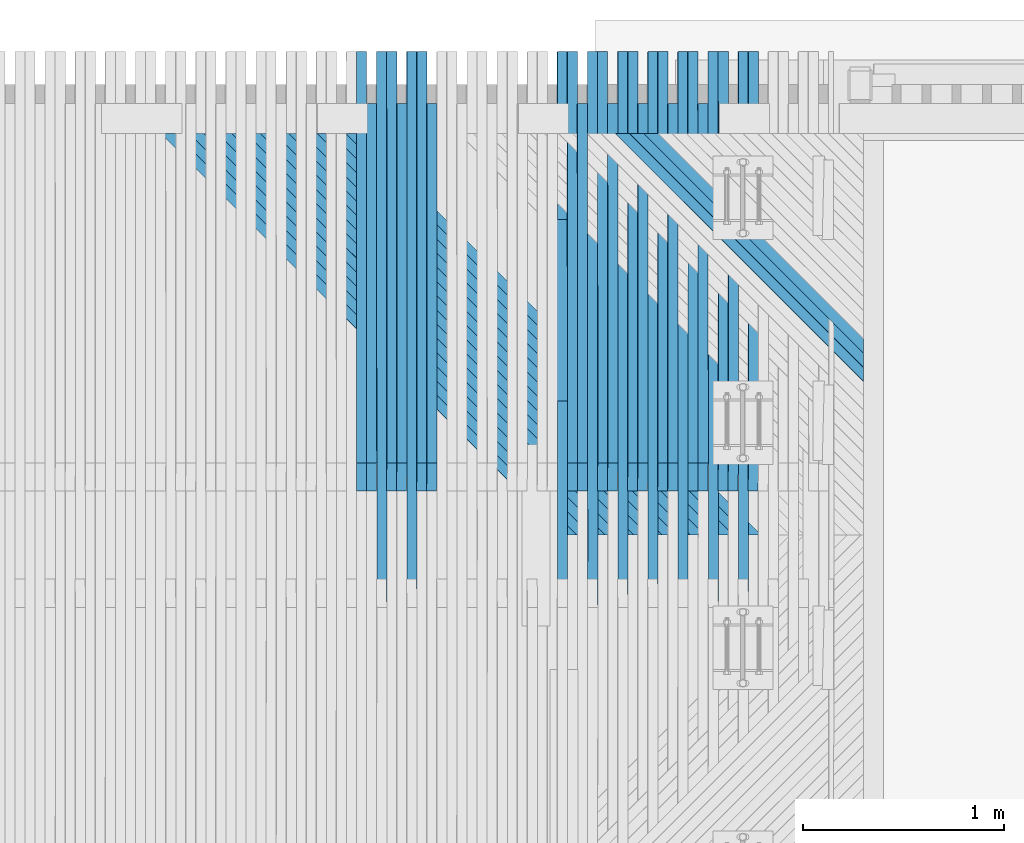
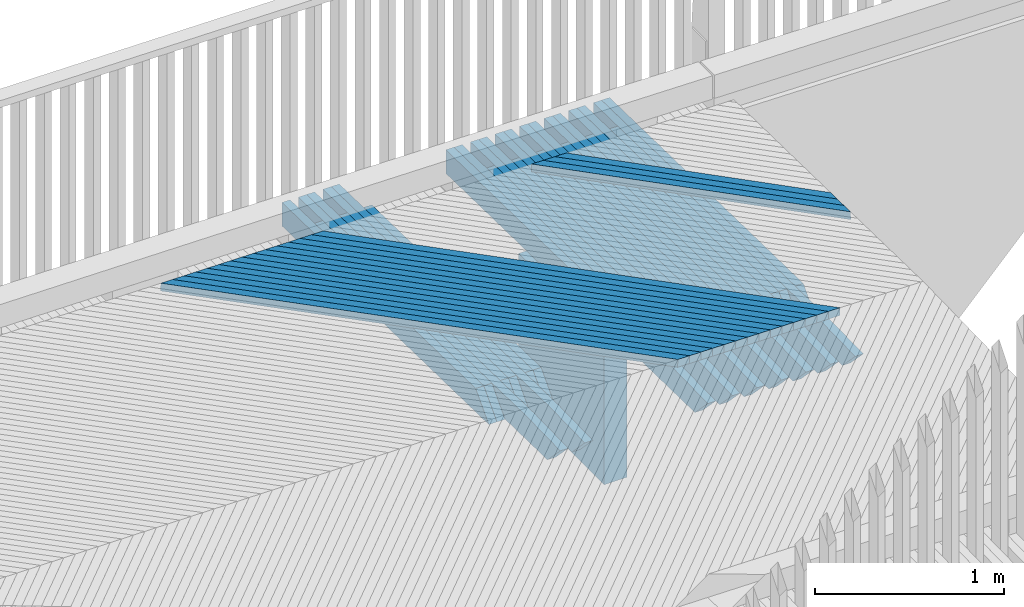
# One storey, part 41 of 47: 46 beams.
"""IFC2X3 building model written with IfcOpenShell, lengths in millimetres."""

from ifc_helpers import new_model, si_unit, frame, origin_with_axes, place, context, subcontext, project, spatial, faceted_brep, material, type_object, element, save


model = new_model("IFC2X3")

# Units and contexts
model_context = context("Model", 3, precision=1e-05, world=origin_with_axes())
body_context = subcontext(model_context, "Body", "Model", "MODEL_VIEW")
ifc_project = project(units=[si_unit("LENGTHUNIT", "METRE", prefix="MILLI"), si_unit("AREAUNIT", "SQUARE_METRE"), si_unit("VOLUMEUNIT", "CUBIC_METRE"), si_unit("MASSUNIT", "GRAM", prefix="KILO"), si_unit("TIMEUNIT", "SECOND"), si_unit("PLANEANGLEUNIT", "RADIAN"), si_unit("SOLIDANGLEUNIT", "STERADIAN"), si_unit("THERMODYNAMICTEMPERATUREUNIT", "DEGREE_CELSIUS"), si_unit("LUMINOUSINTENSITYUNIT", "LUMEN")], contexts=[model_context])

# Site, building, storey
site_placement = place(None, origin_with_axes())
site = spatial("IfcSite", under=ifc_project, at=site_placement, Name="Undefined", CompositionType="ELEMENT")
building_placement = place(site_placement, origin_with_axes())
building = spatial("IfcBuilding", under=site, at=building_placement, Name="Undefined", CompositionType="ELEMENT")
storey_placement = place(building_placement, origin_with_axes())
storey = spatial("IfcBuildingStorey", under=building, at=storey_placement, Name="Undefined", CompositionType="ELEMENT", Elevation=0.0)

# Beams
ifc_material = material(Name="TIMBER/Timber_Undefined")
beam_type_1 = type_object("IfcBeamType", Name="150*50", PredefinedType="NOTDEFINED")
beam_1_placement = place(storey_placement, frame((16051.1745116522, 64771.4438078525, 3034.14462054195), z_axis=(0.0133748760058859, 0.0199960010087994, 0.999710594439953), x_axis=(0.000267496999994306, -0.99980005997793, 0.0199942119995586)))
element("IfcBeam", 1, at=beam_1_placement, inside=storey, type_object=beam_type_1, material=ifc_material, Name="BEAM", ObjectType="150*50", context=body_context, shape_type="Brep", body=[
    faceted_brep([(6.18456397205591e-09, -24.9999999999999, -75.0000000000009), (-6.1918399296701e-09, -24.9999999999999, 74.9999999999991), (-6.19911588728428e-09, 25.0, 75.0), (6.18456397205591e-09, 24.9999999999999, -75.0), (2047.96935975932, 25.0, 75.0), (2186.42645864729, 25.0, -75.0), (2186.42645915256, -25.0000000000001, -75.0), (2047.96936034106, -25.0000000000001, 75.0)], [[[0, 1, 2, 3]], [[3, 2, 4, 5]], [[0, 3, 5, 6]], [[1, 0, 6, 7]], [[2, 1, 7, 4]], [[7, 6, 5, 4]]]),
])
beam_2_placement = place(storey_placement, frame((16001.1395513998, 64771.443807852, 3034.81314235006), z_axis=(0.013208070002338, 0.0199960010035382, 0.999712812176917), x_axis=(0.000264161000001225, -0.999800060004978, 0.0199942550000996)))
element("IfcBeam", 2, at=beam_2_placement, inside=storey, type_object=beam_type_1, material=ifc_material, Name="BEAM", ObjectType="150*50", context=body_context, shape_type="Brep", body=[
    faceted_brep([(6.18456397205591e-09, -24.9999999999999, -75.0000000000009), (6.18456397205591e-09, 24.9999999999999, -75.0), (2633.00494983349, 25.0000000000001, -75.0000000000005), (2633.00495050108, -24.9999999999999, -75.0000000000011), (-6.1918399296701e-09, -24.9999999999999, 74.9999999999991), (-6.19911588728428e-09, 25.0, 75.0), (2408.42506497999, 24.9999999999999, 75.0), (2768.5924870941, 25.0, 60.5875375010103), (2768.59248707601, -25.0, 60.5875366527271), (2408.4250638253, -25.0, 74.9999999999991)], [[[0, 1, 2, 3]], [[0, 4, 5, 1]], [[2, 1, 5, 6, 7]], [[3, 2, 7, 8]], [[4, 0, 3, 8, 9]], [[5, 4, 9, 6]], [[8, 7, 6, 9]]]),
])
beam_3_placement = place(storey_placement, frame((15951.1272743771, 64513.4953923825, 3040.6339626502), z_axis=(0.013208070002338, 0.0199960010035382, 0.999712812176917), x_axis=(0.000264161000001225, -0.999800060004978, 0.0199942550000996)))
element("IfcBeam", 3, at=beam_3_placement, inside=storey, type_object=beam_type_1, material=ifc_material, Name="BEAM", ObjectType="150*50", context=body_context, shape_type="Brep", body=[
    faceted_brep([(6.18456397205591e-09, -24.9999999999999, -75.0000000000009), (-6.1918399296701e-09, -24.9999999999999, 74.9999999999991), (-6.19911588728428e-09, 25.0, 75.0), (6.18456397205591e-09, 24.9999999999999, -75.0), (1789.96936586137, 25.0, 75.0000000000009), (1928.42646506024, 25.0, -75.0), (1928.4264649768, -24.9999999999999, -75.0), (1789.96936577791, -24.9999999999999, 75.0)], [[[0, 1, 2, 3]], [[3, 2, 4, 5]], [[0, 3, 5, 6]], [[1, 0, 6, 7]], [[2, 1, 7, 4]], [[7, 6, 5, 4]]]),
])
beam_4_placement = place(storey_placement, frame((15901.1589184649, 64771.4438078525, 3036.13254464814), z_axis=(0.0131257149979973, 0.0199960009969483, 0.999713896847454), x_axis=(0.000262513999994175, -0.999800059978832, 0.0199942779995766)))
element("IfcBeam", 4, at=beam_4_placement, inside=storey, type_object=beam_type_1, material=ifc_material, Name="BEAM", ObjectType="150*50", context=body_context, shape_type="Brep", body=[
    faceted_brep([(6.18456397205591e-09, -24.9999999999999, -75.0000000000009), (-6.1918399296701e-09, -24.9999999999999, 74.9999999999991), (-6.19911588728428e-09, 25.0, 75.0), (6.18456397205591e-09, 24.9999999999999, -75.0), (2047.96935975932, 25.0, 75.0), (2186.42645864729, 25.0, -75.0), (2186.42645915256, -25.0000000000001, -75.0), (2047.96936034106, -25.0000000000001, 75.0)], [[[0, 1, 2, 3]], [[3, 2, 4, 5]], [[0, 3, 5, 6]], [[1, 0, 6, 7]], [[2, 1, 7, 4]], [[7, 6, 5, 4]]]),
])
beam_5_placement = place(storey_placement, frame((15851.1237931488, 64771.443807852, 3036.78859607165), z_axis=(0.0129589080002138, 0.0199960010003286, 0.999716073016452), x_axis=(0.000259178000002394, -0.999800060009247, 0.0199943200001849)))
element("IfcBeam", 5, at=beam_5_placement, inside=storey, type_object=beam_type_1, material=ifc_material, Name="BEAM", ObjectType="150*50", context=body_context, shape_type="Brep", body=[
    faceted_brep([(6.18456397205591e-09, -24.9999999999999, -75.0000000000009), (6.18456397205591e-09, 24.9999999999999, -75.0), (2633.00494983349, 25.0000000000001, -75.0000000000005), (2633.00495050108, -24.9999999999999, -75.0000000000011), (-6.1918399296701e-09, -24.9999999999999, 74.9999999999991), (-6.19911588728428e-09, 25.0, 75.0), (2408.42506497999, 24.9999999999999, 75.0), (2768.5924870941, 25.0, 60.5875375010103), (2768.59248707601, -25.0, 60.5875366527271), (2408.4250638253, -25.0, 74.9999999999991)], [[[0, 1, 2, 3]], [[0, 4, 5, 1]], [[2, 1, 5, 6, 7]], [[3, 2, 7, 8]], [[4, 0, 3, 8, 9]], [[5, 4, 9, 6]], [[8, 7, 6, 9]]]),
])
beam_6_placement = place(storey_placement, frame((15801.1100669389, 64513.4953923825, 3042.59695148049), z_axis=(0.0129589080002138, 0.0199960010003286, 0.999716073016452), x_axis=(0.000259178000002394, -0.999800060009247, 0.0199943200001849)))
element("IfcBeam", 6, at=beam_6_placement, inside=storey, type_object=beam_type_1, material=ifc_material, Name="BEAM", ObjectType="150*50", context=body_context, shape_type="Brep", body=[
    faceted_brep([(6.18456397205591e-09, -24.9999999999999, -75.0000000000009), (-6.1918399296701e-09, -24.9999999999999, 74.9999999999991), (-6.19911588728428e-09, 25.0, 75.0), (6.18456397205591e-09, 24.9999999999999, -75.0), (1789.96936586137, 25.0, 75.0000000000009), (1928.42646506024, 25.0, -75.0), (1928.4264649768, -24.9999999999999, -75.0), (1789.96936577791, -24.9999999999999, 75.0)], [[[0, 1, 2, 3]], [[3, 2, 4, 5]], [[0, 3, 5, 6]], [[1, 0, 6, 7]], [[2, 1, 7, 4]], [[7, 6, 5, 4]]]),
])
beam_7_placement = place(storey_placement, frame((15751.1428344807, 64771.4438078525, 3038.08307985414), z_axis=(0.012876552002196, 0.0199960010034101, 0.999717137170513), x_axis=(0.00025753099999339, -0.999800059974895, 0.019994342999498)))
element("IfcBeam", 7, at=beam_7_placement, inside=storey, type_object=beam_type_1, material=ifc_material, Name="BEAM", ObjectType="150*50", context=body_context, shape_type="Brep", body=[
    faceted_brep([(6.18456397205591e-09, -24.9999999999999, -75.0000000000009), (-6.1918399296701e-09, -24.9999999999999, 74.9999999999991), (-6.19911588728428e-09, 25.0, 75.0), (6.18456397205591e-09, 24.9999999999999, -75.0), (2047.96935975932, 25.0, 75.0), (2186.42645864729, 25.0, -75.0), (2186.42645915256, -25.0000000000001, -75.0), (2047.96936034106, -25.0000000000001, 75.0)], [[[0, 1, 2, 3]], [[3, 2, 4, 5]], [[0, 3, 5, 6]], [[1, 0, 6, 7]], [[2, 1, 7, 4]], [[7, 6, 5, 4]]]),
])
beam_8_placement = place(storey_placement, frame((15701.1075472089, 64771.443807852, 3038.72666085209), z_axis=(0.012709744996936, 0.0199960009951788, 0.999719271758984), x_axis=(0.000254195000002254, -0.999800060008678, 0.0199943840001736)))
element("IfcBeam", 8, at=beam_8_placement, inside=storey, type_object=beam_type_1, material=ifc_material, Name="BEAM", ObjectType="150*50", context=body_context, shape_type="Brep", body=[
    faceted_brep([(6.18456397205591e-09, -24.9999999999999, -75.0000000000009), (6.18456397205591e-09, 24.9999999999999, -75.0), (2633.00494983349, 25.0000000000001, -75.0000000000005), (2633.00495050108, -24.9999999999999, -75.0000000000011), (-6.1918399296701e-09, -24.9999999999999, 74.9999999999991), (-6.19911588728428e-09, 25.0, 75.0), (2408.42506497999, 24.9999999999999, 75.0), (2768.5924870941, 25.0, 60.5875375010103), (2768.59248707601, -25.0, 60.5875366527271), (2408.4250638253, -25.0, 74.9999999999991)], [[[0, 1, 2, 3]], [[0, 4, 5, 1]], [[2, 1, 5, 6, 7]], [[3, 2, 7, 8]], [[4, 0, 3, 8, 9]], [[5, 4, 9, 6]], [[8, 7, 6, 9]]]),
])
beam_9_placement = place(storey_placement, frame((15651.0923749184, 64513.4953923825, 3044.52255100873), z_axis=(0.012709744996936, 0.0199960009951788, 0.999719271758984), x_axis=(0.000254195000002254, -0.999800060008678, 0.0199943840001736)))
element("IfcBeam", 9, at=beam_9_placement, inside=storey, type_object=beam_type_1, material=ifc_material, Name="BEAM", ObjectType="150*50", context=body_context, shape_type="Brep", body=[
    faceted_brep([(6.18456397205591e-09, -24.9999999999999, -75.0000000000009), (-6.1918399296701e-09, -24.9999999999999, 74.9999999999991), (-6.19911588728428e-09, 25.0, 75.0), (6.18456397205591e-09, 24.9999999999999, -75.0), (1789.96936586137, 25.0, 75.0000000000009), (1928.42646506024, 25.0, -75.0), (1928.4264649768, -24.9999999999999, -75.0), (1789.96936577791, -24.9999999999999, 75.0)], [[[0, 1, 2, 3]], [[3, 2, 4, 5]], [[0, 3, 5, 6]], [[1, 0, 6, 7]], [[2, 1, 7, 4]], [[7, 6, 5, 4]]]),
])
beam_10_placement = place(storey_placement, frame((15601.1262690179, 64771.4438078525, 3039.99622603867), z_axis=(0.012627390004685, 0.019996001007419, 0.999720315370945), x_axis=(0.000252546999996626, -0.999800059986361, 0.0199944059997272)))
element("IfcBeam", 10, at=beam_10_placement, inside=storey, type_object=beam_type_1, material=ifc_material, Name="BEAM", ObjectType="150*50", context=body_context, shape_type="Brep", body=[
    faceted_brep([(6.18456397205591e-09, -24.9999999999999, -75.0000000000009), (-6.1918399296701e-09, -24.9999999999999, 74.9999999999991), (-6.19911588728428e-09, 25.0, 75.0), (6.18456397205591e-09, 24.9999999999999, -75.0), (2047.96935975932, 25.0, 75.0), (2186.42645864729, 25.0, -75.0), (2186.42645915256, -25.0000000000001, -75.0), (2047.96936034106, -25.0000000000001, 75.0)], [[[0, 1, 2, 3]], [[3, 2, 4, 5]], [[0, 3, 5, 6]], [[1, 0, 6, 7]], [[2, 1, 7, 4]], [[7, 6, 5, 4]]]),
])
beam_11_placement = place(storey_placement, frame((15551.0908228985, 64771.443807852, 3040.62733657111), z_axis=(0.0124605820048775, 0.0199960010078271, 0.999722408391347), x_axis=(0.000249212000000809, -0.999800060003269, 0.0199944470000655)))
element("IfcBeam", 11, at=beam_11_placement, inside=storey, type_object=beam_type_1, material=ifc_material, Name="BEAM", ObjectType="150*50", context=body_context, shape_type="Brep", body=[
    faceted_brep([(6.18456397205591e-09, -24.9999999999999, -75.0000000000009), (6.18456397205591e-09, 24.9999999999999, -75.0), (2633.00494983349, 25.0000000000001, -75.0000000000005), (2633.00495050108, -24.9999999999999, -75.0000000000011), (-6.1918399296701e-09, -24.9999999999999, 74.9999999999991), (-6.19911588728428e-09, 25.0, 75.0), (2408.42506497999, 24.9999999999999, 75.0), (2768.5924870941, 25.0, 60.5875375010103), (2768.59248707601, -25.0, 60.5875366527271), (2408.4250638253, -25.0, 74.9999999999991)], [[[0, 1, 2, 3]], [[0, 4, 5, 1]], [[2, 1, 5, 6, 7]], [[3, 2, 7, 8]], [[4, 0, 3, 8, 9]], [[5, 4, 9, 6]], [[8, 7, 6, 9]]]),
])
beam_12_placement = place(storey_placement, frame((15501.0742076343, 64513.4953923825, 3046.41076111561), z_axis=(0.0124605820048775, 0.0199960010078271, 0.999722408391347), x_axis=(0.000249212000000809, -0.999800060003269, 0.0199944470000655)))
element("IfcBeam", 12, at=beam_12_placement, inside=storey, type_object=beam_type_1, material=ifc_material, Name="BEAM", ObjectType="150*50", context=body_context, shape_type="Brep", body=[
    faceted_brep([(6.18456397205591e-09, -24.9999999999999, -75.0000000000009), (-6.1918399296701e-09, -24.9999999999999, 74.9999999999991), (-6.19911588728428e-09, 25.0, 75.0), (6.18456397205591e-09, 24.9999999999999, -75.0), (1789.96936586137, 25.0, 75.0000000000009), (1928.42646506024, 25.0, -75.0), (1928.4264649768, -24.9999999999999, -75.0), (1789.96936577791, -24.9999999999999, 75.0)], [[[0, 1, 2, 3]], [[3, 2, 4, 5]], [[0, 3, 5, 6]], [[1, 0, 6, 7]], [[2, 1, 7, 4]], [[7, 6, 5, 4]]]),
])
beam_13_placement = place(storey_placement, frame((15451.1092313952, 64771.4438078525, 3041.87198308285), z_axis=(0.0123782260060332, 0.0199960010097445, 0.99972343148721), x_axis=(0.000247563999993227, -0.999800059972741, 0.0199944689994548)))
element("IfcBeam", 13, at=beam_13_placement, inside=storey, type_object=beam_type_1, material=ifc_material, Name="BEAM", ObjectType="150*50", context=body_context, shape_type="Brep", body=[
    faceted_brep([(6.18456397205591e-09, -24.9999999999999, -75.0000000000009), (-6.1918399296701e-09, -24.9999999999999, 74.9999999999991), (-6.19911588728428e-09, 25.0, 75.0), (6.18456397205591e-09, 24.9999999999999, -75.0), (2047.96935975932, 25.0, 75.0), (2186.42645864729, 25.0, -75.0), (2186.42645915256, -25.0000000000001, -75.0), (2047.96936034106, -25.0000000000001, 75.0)], [[[0, 1, 2, 3]], [[3, 2, 4, 5]], [[0, 3, 5, 6]], [[1, 0, 6, 7]], [[2, 1, 7, 4]], [[7, 6, 5, 4]]]),
])
beam_14_placement = place(storey_placement, frame((15401.0736295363, 64771.443807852, 3042.49062311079), z_axis=(0.0122114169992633, 0.0199960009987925, 0.999725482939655), x_axis=(0.000244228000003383, -0.999800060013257, 0.0199945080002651)))
element("IfcBeam", 14, at=beam_14_placement, inside=storey, type_object=beam_type_1, material=ifc_material, Name="BEAM", ObjectType="150*50", context=body_context, shape_type="Brep", body=[
    faceted_brep([(6.18456397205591e-09, -24.9999999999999, -75.0000000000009), (6.18456397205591e-09, 24.9999999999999, -75.0), (2633.00494983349, 25.0000000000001, -75.0000000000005), (2633.00495050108, -24.9999999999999, -75.0000000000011), (-6.1918399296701e-09, -24.9999999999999, 74.9999999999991), (-6.19911588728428e-09, 25.0, 75.0), (2408.42506497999, 24.9999999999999, 75.0), (2768.5924870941, 25.0, 60.5875375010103), (2768.59248707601, -25.0, 60.5875366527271), (2408.4250638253, -25.0, 74.9999999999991)], [[[0, 1, 2, 3]], [[0, 4, 5, 1]], [[2, 1, 5, 6, 7]], [[3, 2, 7, 8]], [[4, 0, 3, 8, 9]], [[5, 4, 9, 6]], [[8, 7, 6, 9]]]),
])
beam_15_placement = place(storey_placement, frame((15351.0555744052, 64513.4953923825, 3048.26158168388), z_axis=(0.0122114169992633, 0.0199960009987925, 0.999725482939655), x_axis=(0.000244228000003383, -0.999800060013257, 0.0199945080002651)))
element("IfcBeam", 15, at=beam_15_placement, inside=storey, type_object=beam_type_1, material=ifc_material, Name="BEAM", ObjectType="150*50", context=body_context, shape_type="Brep", body=[
    faceted_brep([(6.18456397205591e-09, -24.9999999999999, -75.0000000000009), (-6.1918399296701e-09, -24.9999999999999, 74.9999999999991), (-6.19911588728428e-09, 25.0, 75.0), (6.18456397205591e-09, 24.9999999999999, -75.0), (1789.96936586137, 25.0, 75.0000000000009), (1928.42646506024, 25.0, -75.0), (1928.4264649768, -24.9999999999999, -75.0), (1789.96936577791, -24.9999999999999, 75.0)], [[[0, 1, 2, 3]], [[3, 2, 4, 5]], [[0, 3, 5, 6]], [[1, 0, 6, 7]], [[2, 1, 7, 4]], [[7, 6, 5, 4]]]),
])
beam_16_placement = place(storey_placement, frame((15301.0917309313, 64771.4438078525, 3043.7103508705), z_axis=(0.0121290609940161, 0.0199960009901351, 0.999726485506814), x_axis=(0.000242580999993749, -0.999800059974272, 0.0199945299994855)))
element("IfcBeam", 16, at=beam_16_placement, inside=storey, type_object=beam_type_1, material=ifc_material, Name="BEAM", ObjectType="150*50", context=body_context, shape_type="Brep", body=[
    faceted_brep([(6.18456397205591e-09, -24.9999999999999, -75.0000000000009), (-6.1918399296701e-09, -24.9999999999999, 74.9999999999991), (-6.19911588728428e-09, 25.0, 75.0), (6.18456397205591e-09, 24.9999999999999, -75.0), (2047.96935975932, 25.0, 75.0), (2186.42645864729, 25.0, -75.0), (2186.42645915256, -25.0000000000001, -75.0), (2047.96936034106, -25.0000000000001, 75.0)], [[[0, 1, 2, 3]], [[3, 2, 4, 5]], [[0, 3, 5, 6]], [[1, 0, 6, 7]], [[2, 1, 7, 4]], [[7, 6, 5, 4]]]),
])
beam_17_placement = place(storey_placement, frame((15251.0559764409, 64771.443807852, 3044.31652035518), z_axis=(0.0119622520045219, 0.0199960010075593, 0.999728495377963), x_axis=(0.000239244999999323, -0.999800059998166, 0.0199945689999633)))
element("IfcBeam", 17, at=beam_17_placement, inside=storey, type_object=beam_type_1, material=ifc_material, Name="BEAM", ObjectType="150*50", context=body_context, shape_type="Brep", body=[
    faceted_brep([(6.18456397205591e-09, -24.9999999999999, -75.0000000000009), (6.18456397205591e-09, 24.9999999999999, -75.0), (2633.00494983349, 25.0000000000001, -75.0000000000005), (2633.00495050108, -24.9999999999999, -75.0000000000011), (-6.1918399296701e-09, -24.9999999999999, 74.9999999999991), (-6.19911588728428e-09, 25.0, 75.0), (2408.42501428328, 25.0000000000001, 74.9999999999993), (2768.5924870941, 25.0, 60.5875375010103), (2768.59248707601, -25.0, 60.5875366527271), (2408.4250638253, -25.0, 74.9999999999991)], [[[0, 1, 2, 3]], [[0, 4, 5, 1]], [[2, 1, 5, 6, 7]], [[3, 2, 7, 8]], [[4, 0, 3, 8, 9]], [[5, 4, 9, 6]], [[8, 7, 6, 9]]]),
])
beam_18_placement = place(storey_placement, frame((15201.0364845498, 64513.4953923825, 3050.0750125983), z_axis=(0.0119622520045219, 0.0199960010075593, 0.999728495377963), x_axis=(0.000239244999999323, -0.999800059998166, 0.0199945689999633)))
element("IfcBeam", 18, at=beam_18_placement, inside=storey, type_object=beam_type_1, material=ifc_material, Name="BEAM", ObjectType="150*50", context=body_context, shape_type="Brep", body=[
    faceted_brep([(6.18456397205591e-09, -24.9999999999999, -75.0000000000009), (-6.1918399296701e-09, -24.9999999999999, 74.9999999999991), (-6.19911588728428e-09, 25.0, 75.0), (6.18456397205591e-09, 24.9999999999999, -75.0), (1789.96936586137, 25.0, 75.0000000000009), (1928.42646506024, 25.0, -75.0), (1928.4264649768, -24.9999999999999, -75.0), (1789.96936577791, -24.9999999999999, 75.0)], [[[0, 1, 2, 3]], [[3, 2, 4, 5]], [[0, 3, 5, 6]], [[1, 0, 6, 7]], [[2, 1, 7, 4]], [[7, 6, 5, 4]]]),
])
beam_19_placement = place(storey_placement, frame((15151.0737769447, 64771.4438078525, 3045.51132928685), z_axis=(0.0118798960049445, 0.0199960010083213, 0.999729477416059), x_axis=(0.000237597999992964, -0.999800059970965, 0.0199945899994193)))
element("IfcBeam", 19, at=beam_19_placement, inside=storey, type_object=beam_type_1, material=ifc_material, Name="BEAM", ObjectType="150*50", context=body_context, shape_type="Brep", body=[
    faceted_brep([(6.18456397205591e-09, -24.9999999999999, -75.0000000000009), (-6.1918399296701e-09, -24.9999999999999, 74.9999999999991), (-6.19911588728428e-09, 25.0, 75.0), (6.18456397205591e-09, 24.9999999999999, -75.0), (2047.96935975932, 25.0, 75.0), (2186.42645864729, 25.0, -75.0), (2186.42645915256, -25.0000000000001, -75.0), (2047.96936034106, -25.0000000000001, 75.0)], [[[0, 1, 2, 3]], [[3, 2, 4, 5]], [[0, 3, 5, 6]], [[1, 0, 6, 7]], [[2, 1, 7, 4]], [[7, 6, 5, 4]]]),
])
beam_20_placement = place(storey_placement, frame((15101.0378729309, 64771.443807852, 3046.10502819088), z_axis=(0.011713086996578, 0.0199960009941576, 0.999731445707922), x_axis=(0.000234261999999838, -0.999800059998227, 0.0199946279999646)))
element("IfcBeam", 20, at=beam_20_placement, inside=storey, type_object=beam_type_1, material=ifc_material, Name="BEAM", ObjectType="150*50", context=body_context, shape_type="Brep", body=[
    faceted_brep([(6.18456397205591e-09, -24.9999999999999, -75.0000000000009), (6.18456397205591e-09, 24.9999999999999, -75.0), (2633.00494983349, 25.0000000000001, -75.0000000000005), (2633.00495050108, -24.9999999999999, -75.0000000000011), (-6.1918399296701e-09, -24.9999999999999, 74.9999999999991), (-6.19911588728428e-09, 25.0, 75.0), (2408.42501428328, 25.0000000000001, 74.9999999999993), (2768.5924870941, 25.0, 60.5875375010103), (2768.59248707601, -25.0, 60.5875366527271), (2408.4250638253, -25.0, 74.9999999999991)], [[[0, 1, 2, 3]], [[0, 4, 5, 1]], [[2, 1, 5, 6, 7]], [[3, 2, 7, 8]], [[4, 0, 3, 8, 9]], [[5, 4, 9, 6]], [[8, 7, 6, 9]]]),
])
beam_21_placement = place(storey_placement, frame((14450.9345120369, 64513.4953923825, 3058.58131850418), z_axis=(0.0107164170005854, 0.0199960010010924, 0.999742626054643), x_axis=(0.000214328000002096, -0.999800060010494, 0.0199948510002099)))
element("IfcBeam", 21, at=beam_21_placement, inside=storey, type_object=beam_type_1, material=ifc_material, Name="BEAM", ObjectType="150*50", context=body_context, shape_type="Brep", body=[
    faceted_brep([(6.18456397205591e-09, -24.9999999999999, -75.0000000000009), (-6.1918399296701e-09, -24.9999999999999, 74.9999999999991), (-6.19911588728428e-09, 25.0, 75.0), (6.18456397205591e-09, 24.9999999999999, -75.0), (1789.96936586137, 25.0, 75.0000000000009), (1928.42646506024, 25.0, -75.0), (1928.4264649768, -24.9999999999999, -75.0), (1789.96936577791, -24.9999999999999, 75.0)], [[[0, 1, 2, 3]], [[3, 2, 4, 5]], [[0, 3, 5, 6]], [[1, 0, 6, 7]], [[2, 1, 7, 4]], [[7, 6, 5, 4]]]),
])
beam_22_placement = place(storey_placement, frame((14400.9775303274, 64771.4438078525, 3053.95537697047), z_axis=(0.0106340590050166, 0.0199960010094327, 0.999743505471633), x_axis=(0.000212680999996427, -0.999800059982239, 0.0199948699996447)))
element("IfcBeam", 22, at=beam_22_placement, inside=storey, type_object=beam_type_1, material=ifc_material, Name="BEAM", ObjectType="150*50", context=body_context, shape_type="Brep", body=[
    faceted_brep([(6.18456397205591e-09, -24.9999999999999, -75.0000000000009), (-6.1918399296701e-09, -24.9999999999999, 74.9999999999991), (-6.19911588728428e-09, 25.0, 75.0), (6.18456397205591e-09, 24.9999999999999, -75.0), (2047.96935975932, 25.0, 75.0), (2186.42645864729, 25.0, -75.0), (2186.42645915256, -25.0000000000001, -75.0), (2047.96936034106, -25.0000000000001, 75.0)], [[[0, 1, 2, 3]], [[3, 2, 4, 5]], [[0, 3, 5, 6]], [[1, 0, 6, 7]], [[2, 1, 7, 4]], [[7, 6, 5, 4]]]),
])
beam_23_placement = place(storey_placement, frame((14350.940925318, 64771.443807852, 3054.48672243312), z_axis=(0.0104672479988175, 0.019996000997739, 0.999745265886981), x_axis=(0.000209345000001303, -0.999800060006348, 0.019994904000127)))
element("IfcBeam", 23, at=beam_23_placement, inside=storey, type_object=beam_type_1, material=ifc_material, Name="BEAM", ObjectType="150*50", context=body_context, shape_type="Brep", body=[
    faceted_brep([(6.18456397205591e-09, -24.9999999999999, -75.0000000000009), (6.18456397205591e-09, 24.9999999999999, -75.0), (2633.00494983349, 25.0000000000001, -75.0000000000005), (2633.00495050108, -24.9999999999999, -75.0000000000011), (-6.1918399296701e-09, -24.9999999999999, 74.9999999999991), (-6.19911588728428e-09, 25.0, 75.0), (2408.42506497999, 24.9999999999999, 75.0), (2768.5924870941, 25.0, 60.5875375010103), (2768.59248707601, -25.0, 60.5875366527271), (2408.4250638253, -25.0, 74.9999999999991)], [[[0, 1, 2, 3]], [[0, 4, 5, 1]], [[2, 1, 5, 6, 7]], [[3, 2, 7, 8]], [[4, 0, 3, 8, 9]], [[5, 4, 9, 6]], [[8, 7, 6, 9]]]),
])
beam_24_placement = place(storey_placement, frame((14300.9128781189, 64513.4953923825, 3060.17040921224), z_axis=(0.0104672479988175, 0.019996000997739, 0.999745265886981), x_axis=(0.000209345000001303, -0.999800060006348, 0.019994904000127)))
element("IfcBeam", 24, at=beam_24_placement, inside=storey, type_object=beam_type_1, material=ifc_material, Name="BEAM", ObjectType="150*50", context=body_context, shape_type="Brep", body=[
    faceted_brep([(6.18456397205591e-09, -24.9999999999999, -75.0000000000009), (-6.1918399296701e-09, -24.9999999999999, 74.9999999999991), (-6.19911588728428e-09, 25.0, 75.0), (6.18456397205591e-09, 24.9999999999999, -75.0), (1789.96936586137, 25.0, 75.0000000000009), (1928.42646506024, 25.0, -75.0), (1928.4264649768, -24.9999999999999, -75.0), (1789.96936577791, -24.9999999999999, 75.0)], [[[0, 1, 2, 3]], [[3, 2, 4, 5]], [[0, 3, 5, 6]], [[1, 0, 6, 7]], [[2, 1, 7, 4]], [[7, 6, 5, 4]]]),
])
beam_25_placement = place(storey_placement, frame((14250.9570508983, 64771.4438078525, 3055.53201689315), z_axis=(0.0103848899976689, 0.0199960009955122, 0.999746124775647), x_axis=(0.000207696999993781, -0.999800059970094, 0.019994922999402)))
element("IfcBeam", 25, at=beam_25_placement, inside=storey, type_object=beam_type_1, material=ifc_material, Name="BEAM", ObjectType="150*50", context=body_context, shape_type="Brep", body=[
    faceted_brep([(6.18456397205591e-09, -24.9999999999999, -75.0000000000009), (-6.1918399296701e-09, -24.9999999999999, 74.9999999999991), (-6.19911588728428e-09, 25.0, 75.0), (6.18456397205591e-09, 24.9999999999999, -75.0), (2047.96935975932, 25.0, 75.0), (2186.42645864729, 25.0, -75.0), (2186.42645915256, -25.0000000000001, -75.0), (2047.96936034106, -25.0000000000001, 75.0)], [[[0, 1, 2, 3]], [[3, 2, 4, 5]], [[0, 3, 5, 6]], [[1, 0, 6, 7]], [[2, 1, 7, 4]], [[7, 6, 5, 4]]]),
])
beam_26_placement = place(storey_placement, frame((14200.9203150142, 64771.443807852, 3056.05089156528), z_axis=(0.0102180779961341, 0.0199960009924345, 0.999747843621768), x_axis=(0.000204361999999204, -0.999800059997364, 0.0199949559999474)))
element("IfcBeam", 26, at=beam_26_placement, inside=storey, type_object=beam_type_1, material=ifc_material, Name="BEAM", ObjectType="150*50", context=body_context, shape_type="Brep", body=[
    faceted_brep([(6.18456397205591e-09, -24.9999999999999, -75.0000000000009), (6.18456397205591e-09, 24.9999999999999, -75.0), (2633.00494983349, 25.0000000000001, -75.0000000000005), (2633.00495050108, -24.9999999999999, -75.0000000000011), (-6.1918399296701e-09, -24.9999999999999, 74.9999999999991), (-6.19911588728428e-09, 25.0, 75.0), (2408.42501428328, 25.0000000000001, 74.9999999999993), (2768.5924870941, 25.0, 60.5875375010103), (2768.59248707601, -25.0, 60.5875366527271), (2408.42499905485, -25.0, 74.9999999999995)], [[[0, 1, 2, 3]], [[0, 4, 5, 1]], [[2, 1, 5, 6, 7]], [[3, 2, 7, 8]], [[4, 0, 3, 8, 9]], [[5, 4, 9, 6]], [[6, 9, 8, 7]]]),
])
beam_27_placement = place(storey_placement, frame((14150.8908528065, 64513.4953923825, 3061.72210952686), z_axis=(0.0102180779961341, 0.0199960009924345, 0.999747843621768), x_axis=(0.000204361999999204, -0.999800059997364, 0.0199949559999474)))
element("IfcBeam", 27, at=beam_27_placement, inside=storey, type_object=beam_type_1, material=ifc_material, Name="BEAM", ObjectType="150*50", context=body_context, shape_type="Brep", body=[
    faceted_brep([(6.18456397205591e-09, -24.9999999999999, -75.0000000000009), (-6.1918399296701e-09, -24.9999999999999, 74.9999999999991), (-6.19911588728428e-09, 25.0, 75.0), (6.18456397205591e-09, 24.9999999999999, -75.0), (1789.96936586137, 25.0, 75.0000000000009), (1928.42646506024, 25.0, -75.0), (1928.4264649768, -24.9999999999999, -75.0), (1789.96936577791, -24.9999999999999, 75.0)], [[[0, 1, 2, 3]], [[3, 2, 4, 5]], [[0, 3, 5, 6]], [[1, 0, 6, 7]], [[2, 1, 7, 4]], [[7, 6, 5, 4]]]),
])
beam_28_placement = place(storey_placement, frame((14100.936183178, 64771.4438078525, 3057.07126671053), z_axis=(0.0101357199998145, 0.0199960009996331, 0.999748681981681), x_axis=(0.000202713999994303, -0.99980005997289, 0.0199949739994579)))
element("IfcBeam", 28, at=beam_28_placement, inside=storey, type_object=beam_type_1, material=ifc_material, Name="BEAM", ObjectType="150*50", context=body_context, shape_type="Brep", body=[
    faceted_brep([(6.18456397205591e-09, -24.9999999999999, -75.0000000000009), (-6.1918399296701e-09, -24.9999999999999, 74.9999999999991), (-6.19911588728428e-09, 25.0, 75.0), (6.18456397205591e-09, 24.9999999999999, -75.0), (2047.96935975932, 25.0, 75.0), (2186.42645864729, 25.0, -75.0), (2186.42645915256, -25.0000000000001, -75.0), (2047.96936034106, -25.0000000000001, 75.0)], [[[0, 1, 2, 3]], [[3, 2, 4, 5]], [[0, 3, 5, 6]], [[1, 0, 6, 7]], [[2, 1, 7, 4]], [[7, 6, 5, 4]]]),
])
beam_type_2 = type_object("IfcBeamType", Name="945*140", PredefinedType="NOTDEFINED")
beam_29_placement = place(storey_placement, frame((15109.0, 63937.5, 2500.4679002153), z_axis=(0.0, 0.0, 1.0), x_axis=(0.0, -1.0, 0.0)))
element("IfcBeam", 29, at=beam_29_placement, inside=storey, type_object=beam_type_2, material=ifc_material, Name="PALKKI", ObjectType="945*140", context=body_context, shape_type="Brep", body=[
    faceted_brep([(0.0, 70.0, -472.5), (0.0, 70.0, 472.5), (905.0, 70.0, 472.5), (905.0, 70.0, -472.5), (0.0, -70.0, 472.5), (905.0, -70.0, 472.5), (0.0, -70.0, -472.5), (905.0, -70.0, -472.5)], [[[0, 1, 2, 3]], [[1, 4, 5, 2]], [[4, 6, 7, 5]], [[6, 0, 3, 7]], [[5, 7, 3, 2]], [[6, 4, 1, 0]]]),
])
beam_type_3 = type_object("IfcBeamType", Name="50*50", PredefinedType="NOTDEFINED")
beam_30_placement = place(storey_placement, frame((17541.730193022, 62365.4998996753, 3160.51267253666), z_axis=(0.706821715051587, 0.706981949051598, -0.0240746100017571), x_axis=(-0.707252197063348, 0.706948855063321, -0.00420072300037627)))
element("IfcBeam", 30, at=beam_30_placement, inside=storey, type_object=beam_type_3, material=ifc_material, Name="BEAM", ObjectType="50*50", context=body_context, shape_type="Brep", body=[
    faceted_brep([(2804.34067830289, -24.9999999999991, 25.0), (2854.34301907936, -24.9999999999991, -25.0), (2852.92877373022, 25.0000000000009, -25.0), (2802.92643296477, 25.0000000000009, 25.0), (1357.01519479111, 25.0000000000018, 25.0000000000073), (1356.02193646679, -24.9999999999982, 25.0000000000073), (1306.05236988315, -24.9999999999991, -24.9999999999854), (1307.04562820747, 25.0000000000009, -24.9999999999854)], [[[0, 1, 2, 3]], [[0, 3, 4, 5]], [[1, 0, 5, 6]], [[2, 1, 6, 7]], [[3, 2, 7, 4]], [[6, 5, 4, 7]]]),
])
beam_31_placement = place(storey_placement, frame((17471.0147750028, 62365.4998996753, 3161.6292973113), z_axis=(0.706824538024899, 0.706981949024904, -0.0239915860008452), x_axis=(-0.7072516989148, 0.706948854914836, -0.004283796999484)))
element("IfcBeam", 31, at=beam_31_placement, inside=storey, type_object=beam_type_3, material=ifc_material, Name="BEAM", ObjectType="50*50", context=body_context, shape_type="Brep", body=[
    faceted_brep([(2804.34067830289, -24.9999999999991, 25.0), (2854.34301907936, -24.9999999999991, -25.0), (2852.92877373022, 25.0000000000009, -25.0), (2802.92643296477, 25.0000000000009, 25.0), (1257.02588801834, 25.0000000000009, 25.0), (1256.04093053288, -24.9999999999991, 25.0000000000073), (1206.07112918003, -24.9999999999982, -24.9999999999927), (1207.05608666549, 25.0000000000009, -24.9999999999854)], [[[0, 1, 2, 3]], [[0, 3, 4, 5]], [[1, 0, 5, 6]], [[2, 1, 6, 7]], [[3, 2, 7, 4]], [[6, 5, 4, 7]]]),
])
beam_32_placement = place(storey_placement, frame((17400.2992263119, 62365.4998996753, 3162.73761579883), z_axis=(0.706827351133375, 0.706981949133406, -0.0239085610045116), x_axis=(-0.707251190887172, 0.70694885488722, -0.00436687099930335)))
element("IfcBeam", 32, at=beam_32_placement, inside=storey, type_object=beam_type_3, material=ifc_material, Name="BEAM", ObjectType="50*50", context=body_context, shape_type="Brep", body=[
    faceted_brep([(2804.34067830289, -24.9999999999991, 25.0), (2854.34301907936, -24.9999999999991, -25.0), (2852.92877373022, 25.0000000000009, -25.0), (2802.92643296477, 25.0000000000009, 25.0), (1157.03627142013, 25.0000000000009, 25.0), (1156.05961482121, -25.0, 25.0), (1106.08957869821, -24.9999999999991, -25.0), (1107.06623529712, 25.0000000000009, -25.0000000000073)], [[[0, 1, 2, 3]], [[0, 3, 4, 5]], [[1, 0, 5, 6]], [[2, 1, 6, 7]], [[3, 2, 7, 4]], [[6, 5, 4, 7]]]),
])
for number, where, z_axis, x_axis, name in (
    (33, (16056.6802712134, 62365.4998996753, 3182.21745282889), (0.706878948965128, 0.706981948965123, -0.0223310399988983), (-0.707239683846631, 0.706948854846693, -0.00594526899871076), "BEAM"),
    (34, (15985.962313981, 62365.4998996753, 3183.15964251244), (0.706881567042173, 0.706981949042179, -0.0222480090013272), (-0.707238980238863, 0.706948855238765, -0.00602834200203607), "BEAM"),
    (35, (15915.2442465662, 62365.4998996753, 3184.09352561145), (0.706884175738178, 0.706981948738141, -0.0221649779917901), (-0.707238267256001, 0.706948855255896, -0.00611141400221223), "BEAM"),
    (36, (15844.5260699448, 62365.4998996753, 3185.01910211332), (0.706886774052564, 0.706981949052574, -0.0220819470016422), (-0.707237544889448, 0.706948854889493, -0.00619448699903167), "BEAM"),
    (37, (15773.8077850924, 62365.4998996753, 3185.93637200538), (0.706889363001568, 0.70698194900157, -0.021998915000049), (-0.707236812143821, 0.706948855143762, -0.00627756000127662), "BEAM"),
    (38, (15703.0893929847, 62365.4998996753, 3186.8453352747), (0.70689194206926, 0.706981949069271, -0.0219158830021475), (-0.707236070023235, 0.706948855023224, -0.006360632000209), "BEAM"),
    (39, (15632.3708945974, 62365.4998996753, 3187.74599190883), (0.706894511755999, 0.706981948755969, -0.021832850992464), (-0.707235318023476, 0.706948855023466, -0.00644370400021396), "BEAM"),
    (40, (15561.6522909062, 62365.4998996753, 3188.6383418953), (0.706897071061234, 0.706981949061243, -0.0217498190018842), (-0.707234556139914, 0.706948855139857, -0.00652677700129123), "BEAM"),
    (41, (15490.9335828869, 62365.4998996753, 3189.52238522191), (0.706899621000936, 0.706981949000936, -0.0216667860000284), (-0.707233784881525, 0.706948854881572, -0.00660984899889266), "BEAM"),
    (42, (15420.2147715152, 62365.4998996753, 3190.39812187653), (0.706902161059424, 0.706981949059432, -0.0215837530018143), (-0.707233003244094, 0.706948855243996, -0.00669292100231), "BEAM"),
    (43, (15349.4958577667, 62365.4998996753, 3191.26555184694), (0.706904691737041, 0.706981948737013, -0.021500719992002), (-0.707232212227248, 0.706948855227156, -0.00677599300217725), "BEAM"),
    (44, (15278.7768426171, 62365.4998996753, 3192.12467512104), (0.706907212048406, 0.706981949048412, -0.0214176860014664), (-0.707231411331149, 0.706948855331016, -0.00685906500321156), "BEAM"),
    (45, (15208.0577270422, 62365.4998996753, 3192.97549168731), (0.706909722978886, 0.706981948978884, -0.0213346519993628), (-0.707230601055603, 0.70694885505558, -0.00694213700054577), "BEAM"),
    (46, (15137.3385120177, 62365.4998996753, 3193.81800153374), (0.706912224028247, 0.706981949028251, -0.021251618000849), (-0.70722978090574, 0.706948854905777, -0.00702520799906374), "BEAM"),
):
    element("IfcBeam", number, at=place(storey_placement, frame(where, z_axis=z_axis, x_axis=x_axis)), inside=storey, type_object=beam_type_3, material=ifc_material, Name=name, ObjectType="50*50", context=body_context, shape_type="Brep", body=[
        faceted_brep([(23.5869248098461, 25.0, -25.0), (-26.4154158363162, 25.0, 25.0), (2802.92643296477, 25.0000000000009, 25.0), (2852.92877373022, 25.0000000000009, -25.0), (-25.0011704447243, -25.0, 24.9999999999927), (2804.34067830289, -24.9999999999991, 25.0), (25.0011701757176, -25.0, -24.9999999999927), (2854.34301907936, -24.9999999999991, -25.0)], [[[0, 1, 2, 3]], [[1, 4, 5, 2]], [[4, 6, 7, 5]], [[6, 0, 3, 7]], [[5, 7, 3, 2]], [[6, 4, 1, 0]]]),
    ])

save(model, "model.ifc")
